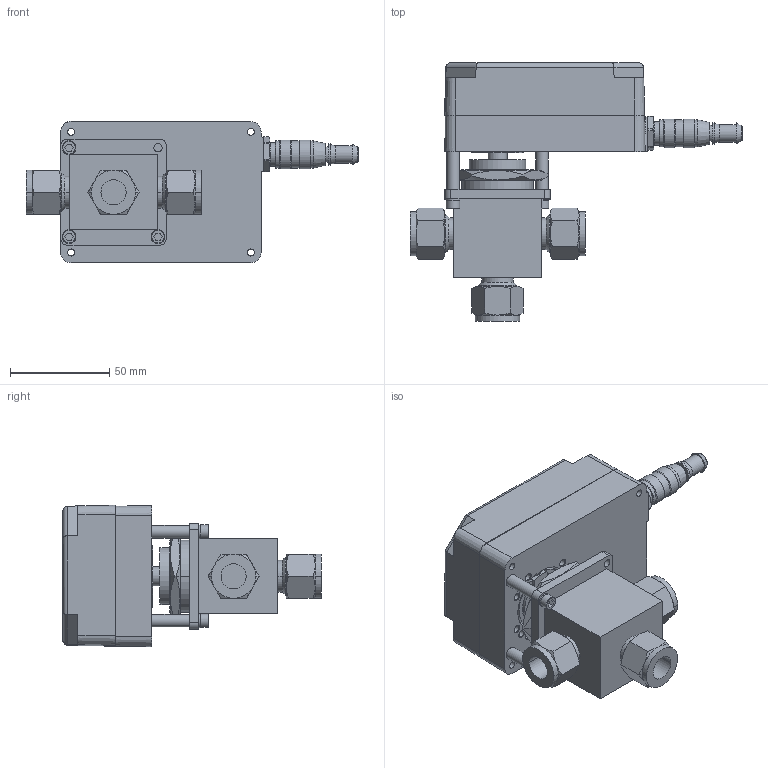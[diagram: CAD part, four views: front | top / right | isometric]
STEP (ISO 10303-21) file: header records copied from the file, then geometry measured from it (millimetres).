
FILE_DESCRIPTION (( 'STEP AP203' ), '1' );
FILE_NAME ('#M-Series Assembly w. 45XS8 (Client Copy).STEP', '2020-09-02T15:38:11', ( 'Technician #5' ), ( '' ), 'SwSTEP 2.0', 'SolidWorks 2020', '' );
FILE_SCHEMA (( 'CONFIG_CONTROL_DESIGN' ));
Length unit declared in the file: inch
Products named in the file (11): MtgKit (0.750); SS-45XS8; 1110-1 Drive Wheel (thicker top); Brass Washer Stamped; 1106B-cast___; #M-Series Assembly w. 45XS8 (Client Copy); 1107-cast___; BSNPLN-Q216; 1174B Valve lever; Turck-Receptacle; Turck Cable
Assembly tree (10 placements, depth 2):
  #M-Series Assembly w. 45XS8 (Client Copy)
    1106B-cast___
    1107-cast___
    1110-1 Drive Wheel (thicker top)
    Brass Washer Stamped
    BSNPLN-Q216
    Turck-Receptacle
    Turck Cable
    1174B Valve lever
    MtgKit (0.750)
    SS-45XS8
Bounding box: 167.65 x 130.42 x 71.52 mm (x, y, z)
Volume: 127638.6 mm3; surface area: 107888.2 mm2
Topology: 12 solids, 17 shells, 901 faces, 2205 edges, 1415 vertices
Faces by surface type: plane 330, cylinder 301, cone 237, torus 21, bspline 12
Full cylindrical faces by diameter (mm): 0.762 x5, 1.016 x5, 2.458 x2, 3.155 x1, 3.175 x1, 3.568 x14, 3.569 x7, 4.216 x4, 4.914 x4, 5.029 x2, 5.08 x1, 5.41 x4, 6.35 x4, 6.858 x3, 6.985 x3, 8 x1, 8.1 x1, 8.3 x1, 8.8 x1, 9 x1, 9.4 x1, 9.5 x1, 9.55 x1, 9.576 x1, 9.6 x1, 9.7 x1, 9.9 x1, 10 x2, 10.433 x1, 10.5 x1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
Entity records: 30111 total; most frequent: CARTESIAN_POINT 9060, DIRECTION 4071, ORIENTED_EDGE 3957, EDGE_CURVE 1979, AXIS2_PLACEMENT_3D 1612, VERTEX_POINT 1354, EDGE_LOOP 1186, FACE_OUTER_BOUND 1008
